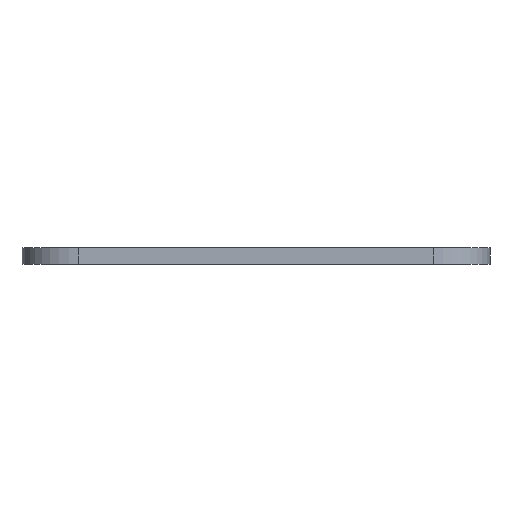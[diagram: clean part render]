
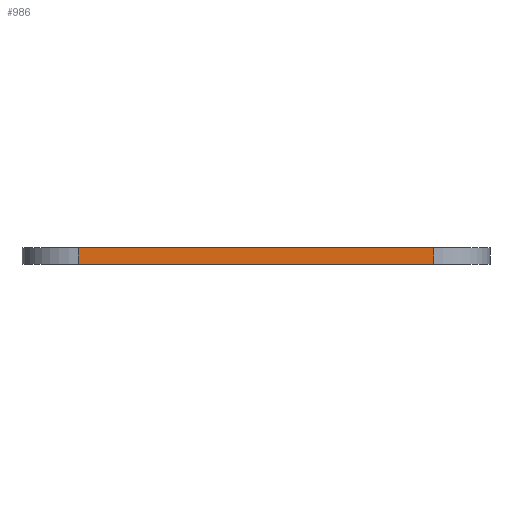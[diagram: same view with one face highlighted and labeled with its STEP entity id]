
A CAD part, left-side view. The second image highlights one B-rep face of the part: STEP entity #986.
In plain terms, the highlighted planar face has unit normal (-1, 0, 0).
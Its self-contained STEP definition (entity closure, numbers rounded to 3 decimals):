
#44 = CYLINDRICAL_SURFACE('',#45,7.);
#45 = AXIS2_PLACEMENT_3D('',#46,#47,#48);
#46 = CARTESIAN_POINT('',(-69.,-22.,0.));
#47 = DIRECTION('',(-0.,0.,-1.));
#48 = DIRECTION('',(1.,0.,0.));
#72 = PLANE('',#73);
#73 = AXIS2_PLACEMENT_3D('',#74,#75,#76);
#74 = CARTESIAN_POINT('',(0.,0.,2.));
#75 = DIRECTION('',(0.,0.,1.));
#76 = DIRECTION('',(1.,0.,-0.));
#126 = PLANE('',#127);
#127 = AXIS2_PLACEMENT_3D('',#128,#129,#130);
#128 = CARTESIAN_POINT('',(0.,0.,0.));
#129 = DIRECTION('',(0.,0.,1.));
#130 = DIRECTION('',(1.,0.,-0.));
#141 = EDGE_CURVE('',#142,#144,#146,.T.);
#142 = VERTEX_POINT('',#143);
#143 = CARTESIAN_POINT('',(-76.,-22.,0.));
#144 = VERTEX_POINT('',#145);
#145 = CARTESIAN_POINT('',(-76.,-22.,2.));
#146 = SURFACE_CURVE('',#147,(#151,#158),.PCURVE_S1.);
#147 = LINE('',#148,#149);
#148 = CARTESIAN_POINT('',(-76.,-22.,0.));
#149 = VECTOR('',#150,1.);
#150 = DIRECTION('',(0.,0.,1.));
#151 = PCURVE('',#44,#152);
#152 = DEFINITIONAL_REPRESENTATION('',(#153),#157);
#153 = LINE('',#154,#155);
#154 = CARTESIAN_POINT('',(-3.142,0.));
#155 = VECTOR('',#156,1.);
#156 = DIRECTION('',(-0.,-1.));
#157 = ( GEOMETRIC_REPRESENTATION_CONTEXT(2) 
PARAMETRIC_REPRESENTATION_CONTEXT() REPRESENTATION_CONTEXT('2D SPACE',''
  ) );
#158 = PCURVE('',#159,#164);
#159 = PLANE('',#160);
#160 = AXIS2_PLACEMENT_3D('',#161,#162,#163);
#161 = CARTESIAN_POINT('',(-76.,22.,0.));
#162 = DIRECTION('',(1.,0.,-0.));
#163 = DIRECTION('',(0.,-1.,0.));
#164 = DEFINITIONAL_REPRESENTATION('',(#165),#169);
#165 = LINE('',#166,#167);
#166 = CARTESIAN_POINT('',(44.,0.));
#167 = VECTOR('',#168,1.);
#168 = DIRECTION('',(0.,-1.));
#169 = ( GEOMETRIC_REPRESENTATION_CONTEXT(2) 
PARAMETRIC_REPRESENTATION_CONTEXT() REPRESENTATION_CONTEXT('2D SPACE',''
  ) );
#380 = VERTEX_POINT('',#381);
#381 = CARTESIAN_POINT('',(-76.,22.,0.));
#396 = CYLINDRICAL_SURFACE('',#397,7.);
#397 = AXIS2_PLACEMENT_3D('',#398,#399,#400);
#398 = CARTESIAN_POINT('',(-69.,22.,0.));
#399 = DIRECTION('',(-0.,0.,-1.));
#400 = DIRECTION('',(1.,0.,0.));
#408 = EDGE_CURVE('',#380,#142,#409,.T.);
#409 = SURFACE_CURVE('',#410,(#414,#421),.PCURVE_S1.);
#410 = LINE('',#411,#412);
#411 = CARTESIAN_POINT('',(-76.,29.,0.));
#412 = VECTOR('',#413,1.);
#413 = DIRECTION('',(0.,-1.,0.));
#414 = PCURVE('',#126,#415);
#415 = DEFINITIONAL_REPRESENTATION('',(#416),#420);
#416 = LINE('',#417,#418);
#417 = CARTESIAN_POINT('',(-76.,29.));
#418 = VECTOR('',#419,1.);
#419 = DIRECTION('',(0.,-1.));
#420 = ( GEOMETRIC_REPRESENTATION_CONTEXT(2) 
PARAMETRIC_REPRESENTATION_CONTEXT() REPRESENTATION_CONTEXT('2D SPACE',''
  ) );
#421 = PCURVE('',#159,#422);
#422 = DEFINITIONAL_REPRESENTATION('',(#423),#427);
#423 = LINE('',#424,#425);
#424 = CARTESIAN_POINT('',(-7.,0.));
#425 = VECTOR('',#426,1.);
#426 = DIRECTION('',(1.,0.));
#427 = ( GEOMETRIC_REPRESENTATION_CONTEXT(2) 
PARAMETRIC_REPRESENTATION_CONTEXT() REPRESENTATION_CONTEXT('2D SPACE',''
  ) );
#744 = VERTEX_POINT('',#745);
#745 = CARTESIAN_POINT('',(-76.,22.,2.));
#767 = EDGE_CURVE('',#744,#144,#768,.T.);
#768 = SURFACE_CURVE('',#769,(#773,#780),.PCURVE_S1.);
#769 = LINE('',#770,#771);
#770 = CARTESIAN_POINT('',(-76.,29.,2.));
#771 = VECTOR('',#772,1.);
#772 = DIRECTION('',(0.,-1.,0.));
#773 = PCURVE('',#72,#774);
#774 = DEFINITIONAL_REPRESENTATION('',(#775),#779);
#775 = LINE('',#776,#777);
#776 = CARTESIAN_POINT('',(-76.,29.));
#777 = VECTOR('',#778,1.);
#778 = DIRECTION('',(0.,-1.));
#779 = ( GEOMETRIC_REPRESENTATION_CONTEXT(2) 
PARAMETRIC_REPRESENTATION_CONTEXT() REPRESENTATION_CONTEXT('2D SPACE',''
  ) );
#780 = PCURVE('',#159,#781);
#781 = DEFINITIONAL_REPRESENTATION('',(#782),#786);
#782 = LINE('',#783,#784);
#783 = CARTESIAN_POINT('',(-7.,-2.));
#784 = VECTOR('',#785,1.);
#785 = DIRECTION('',(1.,0.));
#786 = ( GEOMETRIC_REPRESENTATION_CONTEXT(2) 
PARAMETRIC_REPRESENTATION_CONTEXT() REPRESENTATION_CONTEXT('2D SPACE',''
  ) );
#986 = ADVANCED_FACE('',(#987),#159,.F.);
#987 = FACE_BOUND('',#988,.F.);
#988 = EDGE_LOOP('',(#989,#1010,#1011,#1012));
#989 = ORIENTED_EDGE('',*,*,#990,.T.);
#990 = EDGE_CURVE('',#380,#744,#991,.T.);
#991 = SURFACE_CURVE('',#992,(#996,#1003),.PCURVE_S1.);
#992 = LINE('',#993,#994);
#993 = CARTESIAN_POINT('',(-76.,22.,0.));
#994 = VECTOR('',#995,1.);
#995 = DIRECTION('',(0.,0.,1.));
#996 = PCURVE('',#159,#997);
#997 = DEFINITIONAL_REPRESENTATION('',(#998),#1002);
#998 = LINE('',#999,#1000);
#999 = CARTESIAN_POINT('',(0.,0.));
#1000 = VECTOR('',#1001,1.);
#1001 = DIRECTION('',(0.,-1.));
#1002 = ( GEOMETRIC_REPRESENTATION_CONTEXT(2) 
PARAMETRIC_REPRESENTATION_CONTEXT() REPRESENTATION_CONTEXT('2D SPACE',''
  ) );
#1003 = PCURVE('',#396,#1004);
#1004 = DEFINITIONAL_REPRESENTATION('',(#1005),#1009);
#1005 = LINE('',#1006,#1007);
#1006 = CARTESIAN_POINT('',(-3.142,0.));
#1007 = VECTOR('',#1008,1.);
#1008 = DIRECTION('',(-0.,-1.));
#1009 = ( GEOMETRIC_REPRESENTATION_CONTEXT(2) 
PARAMETRIC_REPRESENTATION_CONTEXT() REPRESENTATION_CONTEXT('2D SPACE',''
  ) );
#1010 = ORIENTED_EDGE('',*,*,#767,.T.);
#1011 = ORIENTED_EDGE('',*,*,#141,.F.);
#1012 = ORIENTED_EDGE('',*,*,#408,.F.);
